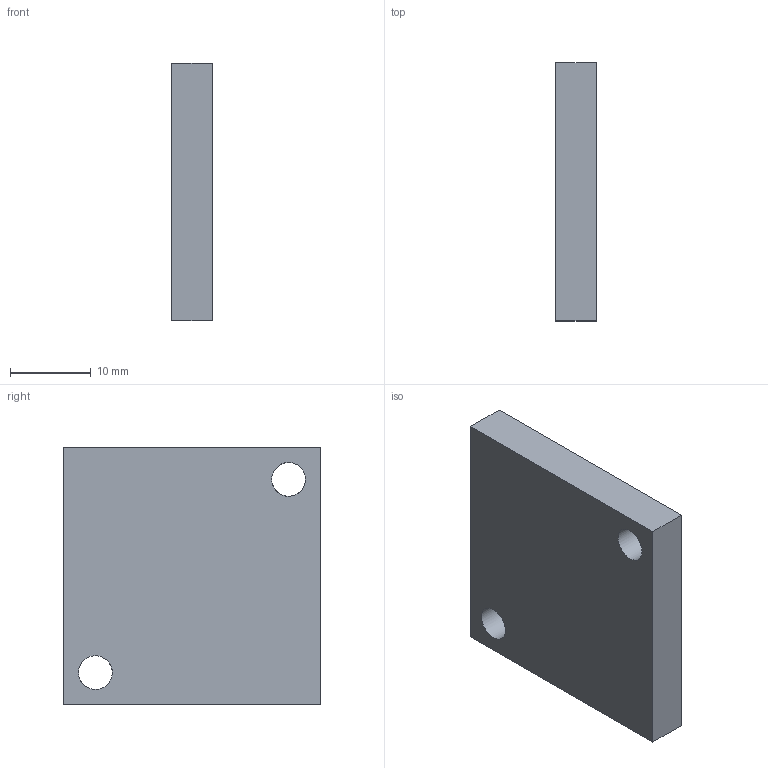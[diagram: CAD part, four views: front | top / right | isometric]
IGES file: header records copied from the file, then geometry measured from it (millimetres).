
Global section: file name: 300_12_00; native system: Autodesk Inventor 2014; preprocessor: unknown; author: A. Manieri; organization: Pneumax S.p.A.; date: 20161004.163601; units: millimetre
Bounding box: 5 x 32 x 32 mm (x, y, z)
Volume: 4981.3 mm3; surface area: 2764.8 mm2
Topology: 1 solids, 1 shells, 8 faces, 18 edges, 12 vertices
Faces by surface type: bspline 8
